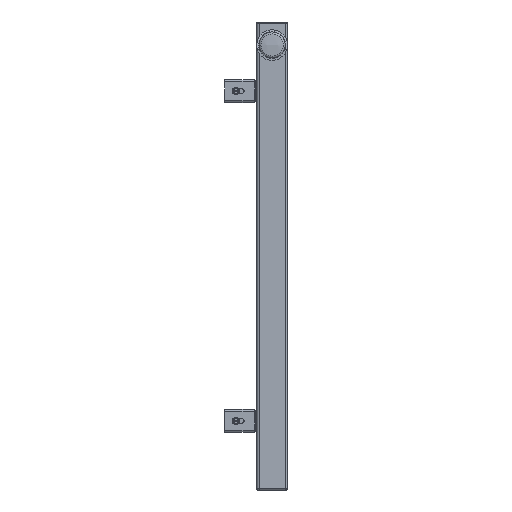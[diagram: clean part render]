
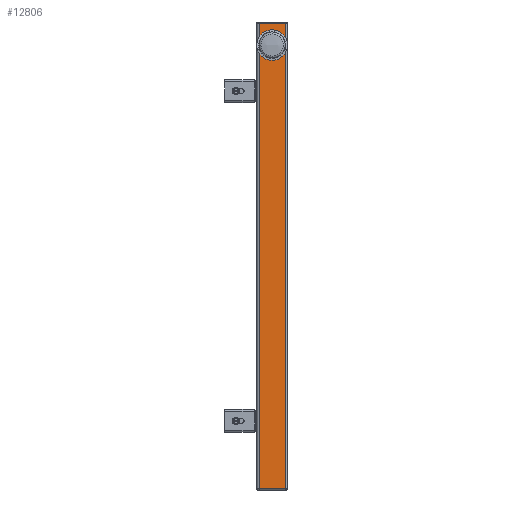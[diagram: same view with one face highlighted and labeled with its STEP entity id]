
A CAD part, left-side view. The second image highlights one B-rep face of the part: STEP entity #12806.
In plain terms, the highlighted planar face has unit normal (-1, 0, 0).
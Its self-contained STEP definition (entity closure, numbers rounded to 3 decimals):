
#12183=CARTESIAN_POINT('',(-40.,-17.0,1.5));
#12184=VERTEX_POINT('',#12183);
#12227=CARTESIAN_POINT('',(-40.,17.0,1.5));
#12228=VERTEX_POINT('',#12227);
#12245=CARTESIAN_POINT('',(-40.,-17.0,1.5));
#12246=DIRECTION('',(0.0,1.0,0.0));
#12247=VECTOR('',#12246,34.0);
#12248=LINE('',#12245,#12247);
#12249=EDGE_CURVE('',#12184,#12228,#12248,.T.);
#12753=CARTESIAN_POINT('',(-40.,17.0,608.5));
#12754=VERTEX_POINT('',#12753);
#12755=CARTESIAN_POINT('',(-40.,17.0,1.5));
#12756=DIRECTION('',(0.0,0.0,1.0));
#12757=VECTOR('',#12756,607.0);
#12758=LINE('',#12755,#12757);
#12759=EDGE_CURVE('',#12228,#12754,#12758,.T.);
#12772=CARTESIAN_POINT('',(-40.,-17.0,0.0));
#12773=DIRECTION('',(-1.0,0.0,0.0));
#12774=DIRECTION('',(0.0,0.0,1.0));
#12775=AXIS2_PLACEMENT_3D('',#12772,#12773,#12774);
#12776=PLANE('',#12775);
#12777=ORIENTED_EDGE('',*,*,#12249,.F.);
#12778=CARTESIAN_POINT('',(-40.,-17.0,608.5));
#12779=VERTEX_POINT('',#12778);
#12780=CARTESIAN_POINT('',(-40.,-17.0,1.5));
#12781=DIRECTION('',(0.0,0.0,1.0));
#12782=VECTOR('',#12781,607.0);
#12783=LINE('',#12780,#12782);
#12784=EDGE_CURVE('',#12184,#12779,#12783,.T.);
#12785=ORIENTED_EDGE('',*,*,#12784,.T.);
#12786=CARTESIAN_POINT('',(-40.,17.,608.5));
#12787=DIRECTION('',(0.0,-1.0,0.0));
#12788=VECTOR('',#12787,34.0);
#12789=LINE('',#12786,#12788);
#12790=EDGE_CURVE('',#12754,#12779,#12789,.T.);
#12791=ORIENTED_EDGE('',*,*,#12790,.F.);
#12792=ORIENTED_EDGE('',*,*,#12759,.F.);
#12793=EDGE_LOOP('',(#12777,#12785,#12791,#12792));
#12794=FACE_OUTER_BOUND('',#12793,.T.);
#12795=CARTESIAN_POINT('',(-40.,0.,595.0));
#12796=VERTEX_POINT('',#12795);
#12797=CARTESIAN_POINT('',(-40.,0.0,580.0));
#12798=DIRECTION('',(1.0,0.0,0.0));
#12799=DIRECTION('',(0.0,0.0,-1.0));
#12800=AXIS2_PLACEMENT_3D('',#12797,#12798,#12799);
#12801=CIRCLE('',#12800,15.0);
#12802=EDGE_CURVE('',#12796,#12796,#12801,.T.);
#12803=ORIENTED_EDGE('',*,*,#12802,.T.);
#12804=EDGE_LOOP('',(#12803));
#12805=FACE_BOUND('',#12804,.T.);
#12806=ADVANCED_FACE('',(#12794,#12805),#12776,.T.);
